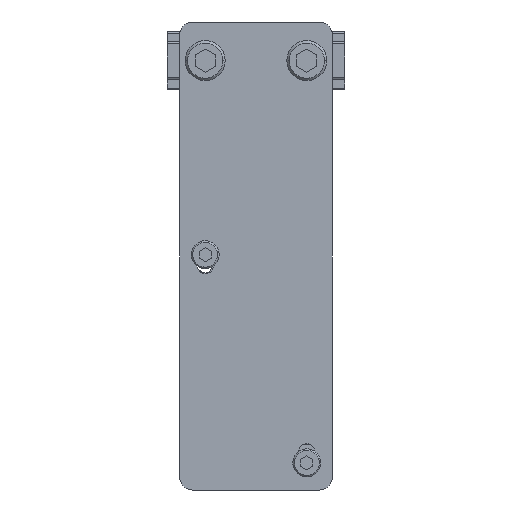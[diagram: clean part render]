
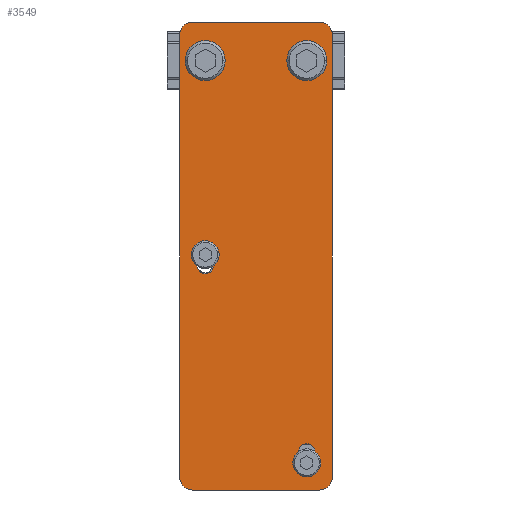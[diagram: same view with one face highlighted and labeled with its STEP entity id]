
A CAD part, front view. The second image highlights one B-rep face of the part: STEP entity #3549.
In plain terms, the highlighted planar face has unit normal (0, -1, 0) as drawn and (0, 0, 1) by its records, which use the part's own axes.
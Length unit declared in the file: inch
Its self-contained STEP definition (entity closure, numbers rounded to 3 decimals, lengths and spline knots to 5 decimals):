
#3168=CARTESIAN_POINT('',(-0.5,0.,0.179));
#3169=DIRECTION('',(0.,0.,1.));
#3170=DIRECTION('',(1.,0.,0.));
#3171=AXIS2_PLACEMENT_3D('',#3168,#3169,#3170);
#3173=CARTESIAN_POINT('',(-0.5,0.,0.179));
#3174=DIRECTION('',(0.,0.,1.));
#3175=DIRECTION('',(-1.,0.,0.));
#3176=AXIS2_PLACEMENT_3D('',#3173,#3174,#3175);
#3178=DIRECTION('',(0.,-1.,0.));
#3179=VECTOR('',#3178,0.11);
#3180=CARTESIAN_POINT('',(-0.579,3.9585,0.179));
#3181=LINE('',#3180,#3179);
#3182=CARTESIAN_POINT('',(-0.5,3.8485,0.179));
#3183=DIRECTION('',(0.,0.,1.));
#3184=DIRECTION('',(-1.,0.,0.));
#3185=AXIS2_PLACEMENT_3D('',#3182,#3183,#3184);
#3187=DIRECTION('',(0.,1.,0.));
#3188=VECTOR('',#3187,0.11);
#3189=CARTESIAN_POINT('',(-0.421,3.8485,0.179));
#3190=LINE('',#3189,#3188);
#3191=CARTESIAN_POINT('',(-0.5,3.9585,0.179));
#3192=DIRECTION('',(0.,0.,1.));
#3193=DIRECTION('',(1.,0.,0.));
#3194=AXIS2_PLACEMENT_3D('',#3191,#3192,#3193);
#3196=CARTESIAN_POINT('',(0.5,0.,0.179));
#3197=DIRECTION('',(0.,0.,1.));
#3198=DIRECTION('',(1.,0.,0.));
#3199=AXIS2_PLACEMENT_3D('',#3196,#3197,#3198);
#3201=CARTESIAN_POINT('',(0.5,0.,0.179));
#3202=DIRECTION('',(0.,0.,1.));
#3203=DIRECTION('',(-1.,0.,0.));
#3204=AXIS2_PLACEMENT_3D('',#3201,#3202,#3203);
#3206=DIRECTION('',(0.,-1.,0.));
#3207=VECTOR('',#3206,0.11);
#3208=CARTESIAN_POINT('',(0.421,2.0205,0.179));
#3209=LINE('',#3208,#3207);
#3210=CARTESIAN_POINT('',(0.5,1.9105,0.179));
#3211=DIRECTION('',(0.,0.,1.));
#3212=DIRECTION('',(-1.,0.,0.));
#3213=AXIS2_PLACEMENT_3D('',#3210,#3211,#3212);
#3215=DIRECTION('',(0.,1.,0.));
#3216=VECTOR('',#3215,0.11);
#3217=CARTESIAN_POINT('',(0.579,1.9105,0.179));
#3218=LINE('',#3217,#3216);
#3219=CARTESIAN_POINT('',(0.5,2.0205,0.179));
#3220=DIRECTION('',(0.,0.,1.));
#3221=DIRECTION('',(1.,0.,0.));
#3222=AXIS2_PLACEMENT_3D('',#3219,#3220,#3221);
#3224=CARTESIAN_POINT('',(0.625,4.1005,0.179));
#3225=DIRECTION('',(0.,0.,1.));
#3226=DIRECTION('',(1.,0.,0.));
#3227=AXIS2_PLACEMENT_3D('',#3224,#3225,#3226);
#3229=DIRECTION('',(0.,1.,0.));
#3230=VECTOR('',#3229,4.3555);
#3231=CARTESIAN_POINT('',(0.75,-0.255,0.179));
#3232=LINE('',#3231,#3230);
#3233=CARTESIAN_POINT('',(0.625,-0.255,0.179));
#3234=DIRECTION('',(0.,0.,1.));
#3235=DIRECTION('',(0.,-1.,0.));
#3236=AXIS2_PLACEMENT_3D('',#3233,#3234,#3235);
#3238=DIRECTION('',(1.,0.,0.));
#3239=VECTOR('',#3238,1.25);
#3240=CARTESIAN_POINT('',(-0.625,-0.38,0.179));
#3241=LINE('',#3240,#3239);
#3242=CARTESIAN_POINT('',(-0.625,-0.255,0.179));
#3243=DIRECTION('',(0.,0.,1.));
#3244=DIRECTION('',(-1.,0.,0.));
#3245=AXIS2_PLACEMENT_3D('',#3242,#3243,#3244);
#3247=DIRECTION('',(0.,-1.,0.));
#3248=VECTOR('',#3247,4.3555);
#3249=CARTESIAN_POINT('',(-0.75,4.1005,0.179));
#3250=LINE('',#3249,#3248);
#3251=CARTESIAN_POINT('',(-0.625,4.1005,0.179));
#3252=DIRECTION('',(0.,0.,1.));
#3253=DIRECTION('',(0.,1.,0.));
#3254=AXIS2_PLACEMENT_3D('',#3251,#3252,#3253);
#3256=DIRECTION('',(-1.,0.,0.));
#3257=VECTOR('',#3256,1.25);
#3258=CARTESIAN_POINT('',(0.625,4.2255,0.179));
#3259=LINE('',#3258,#3257);
#3336=CARTESIAN_POINT('',(-0.375,0.,0.179));
#3337=CARTESIAN_POINT('',(-0.625,0.,0.179));
#3338=VERTEX_POINT('',#3336);
#3339=VERTEX_POINT('',#3337);
#3348=CARTESIAN_POINT('',(-0.579,3.9585,0.179));
#3349=CARTESIAN_POINT('',(-0.579,3.8485,0.179));
#3350=VERTEX_POINT('',#3348);
#3351=VERTEX_POINT('',#3349);
#3352=CARTESIAN_POINT('',(-0.421,3.8485,0.179));
#3353=VERTEX_POINT('',#3352);
#3354=CARTESIAN_POINT('',(-0.421,3.9585,0.179));
#3355=VERTEX_POINT('',#3354);
#3368=CARTESIAN_POINT('',(0.625,0.,0.179));
#3369=CARTESIAN_POINT('',(0.375,0.,0.179));
#3370=VERTEX_POINT('',#3368);
#3371=VERTEX_POINT('',#3369);
#3372=CARTESIAN_POINT('',(0.421,2.0205,0.179));
#3373=CARTESIAN_POINT('',(0.421,1.9105,0.179));
#3374=VERTEX_POINT('',#3372);
#3375=VERTEX_POINT('',#3373);
#3376=CARTESIAN_POINT('',(0.579,1.9105,0.179));
#3377=VERTEX_POINT('',#3376);
#3378=CARTESIAN_POINT('',(0.579,2.0205,0.179));
#3379=VERTEX_POINT('',#3378);
#3384=CARTESIAN_POINT('',(0.75,4.1005,0.179));
#3385=VERTEX_POINT('',#3384);
#3386=CARTESIAN_POINT('',(0.625,4.2255,0.179));
#3387=VERTEX_POINT('',#3386);
#3392=CARTESIAN_POINT('',(-0.625,4.2255,0.179));
#3393=VERTEX_POINT('',#3392);
#3394=CARTESIAN_POINT('',(-0.75,4.1005,0.179));
#3395=VERTEX_POINT('',#3394);
#3400=CARTESIAN_POINT('',(-0.75,-0.255,0.179));
#3401=VERTEX_POINT('',#3400);
#3402=CARTESIAN_POINT('',(-0.625,-0.38,0.179));
#3403=VERTEX_POINT('',#3402);
#3408=CARTESIAN_POINT('',(0.625,-0.38,0.179));
#3409=VERTEX_POINT('',#3408);
#3410=CARTESIAN_POINT('',(0.75,-0.255,0.179));
#3411=VERTEX_POINT('',#3410);
#3496=CARTESIAN_POINT('',(0.,0.,0.179));
#3497=DIRECTION('',(0.,0.,1.));
#3498=DIRECTION('',(1.,0.,0.));
#3499=AXIS2_PLACEMENT_3D('',#3496,#3497,#3498);
#3500=PLANE('',#3499);
#3502=ORIENTED_EDGE('',*,*,#3501,.F.);
#3504=ORIENTED_EDGE('',*,*,#3503,.F.);
#3506=ORIENTED_EDGE('',*,*,#3505,.F.);
#3508=ORIENTED_EDGE('',*,*,#3507,.F.);
#3510=ORIENTED_EDGE('',*,*,#3509,.F.);
#3512=ORIENTED_EDGE('',*,*,#3511,.F.);
#3514=ORIENTED_EDGE('',*,*,#3513,.F.);
#3516=ORIENTED_EDGE('',*,*,#3515,.F.);
#3517=EDGE_LOOP('',(#3502,#3504,#3506,#3508,#3510,#3512,#3514,#3516));
#3518=FACE_OUTER_BOUND('',#3517,.F.);
#3520=ORIENTED_EDGE('',*,*,#3519,.T.);
#3522=ORIENTED_EDGE('',*,*,#3521,.T.);
#3524=ORIENTED_EDGE('',*,*,#3523,.T.);
#3526=ORIENTED_EDGE('',*,*,#3525,.T.);
#3527=EDGE_LOOP('',(#3520,#3522,#3524,#3526));
#3528=FACE_BOUND('',#3527,.F.);
#3530=ORIENTED_EDGE('',*,*,#3529,.T.);
#3532=ORIENTED_EDGE('',*,*,#3531,.T.);
#3533=EDGE_LOOP('',(#3530,#3532));
#3534=FACE_BOUND('',#3533,.F.);
#3536=ORIENTED_EDGE('',*,*,#3535,.T.);
#3538=ORIENTED_EDGE('',*,*,#3537,.T.);
#3540=ORIENTED_EDGE('',*,*,#3539,.T.);
#3542=ORIENTED_EDGE('',*,*,#3541,.T.);
#3543=EDGE_LOOP('',(#3536,#3538,#3540,#3542));
#3544=FACE_BOUND('',#3543,.F.);
#3545=ORIENTED_EDGE('',*,*,#3476,.T.);
#3546=ORIENTED_EDGE('',*,*,#3490,.T.);
#3547=EDGE_LOOP('',(#3545,#3546));
#3548=FACE_BOUND('',#3547,.F.);
#3172=CIRCLE('',#3171,0.125);
#3177=CIRCLE('',#3176,0.125);
#3186=CIRCLE('',#3185,0.079);
#3195=CIRCLE('',#3194,0.079);
#3200=CIRCLE('',#3199,0.125);
#3205=CIRCLE('',#3204,0.125);
#3214=CIRCLE('',#3213,0.079);
#3223=CIRCLE('',#3222,0.079);
#3228=CIRCLE('',#3227,0.125);
#3237=CIRCLE('',#3236,0.125);
#3246=CIRCLE('',#3245,0.125);
#3255=CIRCLE('',#3254,0.125);
#3476=EDGE_CURVE('',#3338,#3339,#3172,.T.);
#3490=EDGE_CURVE('',#3339,#3338,#3177,.T.);
#3501=EDGE_CURVE('',#3385,#3387,#3228,.T.);
#3503=EDGE_CURVE('',#3411,#3385,#3232,.T.);
#3505=EDGE_CURVE('',#3409,#3411,#3237,.T.);
#3507=EDGE_CURVE('',#3403,#3409,#3241,.T.);
#3509=EDGE_CURVE('',#3401,#3403,#3246,.T.);
#3511=EDGE_CURVE('',#3395,#3401,#3250,.T.);
#3513=EDGE_CURVE('',#3393,#3395,#3255,.T.);
#3515=EDGE_CURVE('',#3387,#3393,#3259,.T.);
#3519=EDGE_CURVE('',#3350,#3351,#3181,.T.);
#3521=EDGE_CURVE('',#3351,#3353,#3186,.T.);
#3523=EDGE_CURVE('',#3353,#3355,#3190,.T.);
#3525=EDGE_CURVE('',#3355,#3350,#3195,.T.);
#3529=EDGE_CURVE('',#3370,#3371,#3200,.T.);
#3531=EDGE_CURVE('',#3371,#3370,#3205,.T.);
#3535=EDGE_CURVE('',#3374,#3375,#3209,.T.);
#3537=EDGE_CURVE('',#3375,#3377,#3214,.T.);
#3539=EDGE_CURVE('',#3377,#3379,#3218,.T.);
#3541=EDGE_CURVE('',#3379,#3374,#3223,.T.);
#3549=ADVANCED_FACE('',(#3518,#3528,#3534,#3544,#3548),#3500,.T.);
